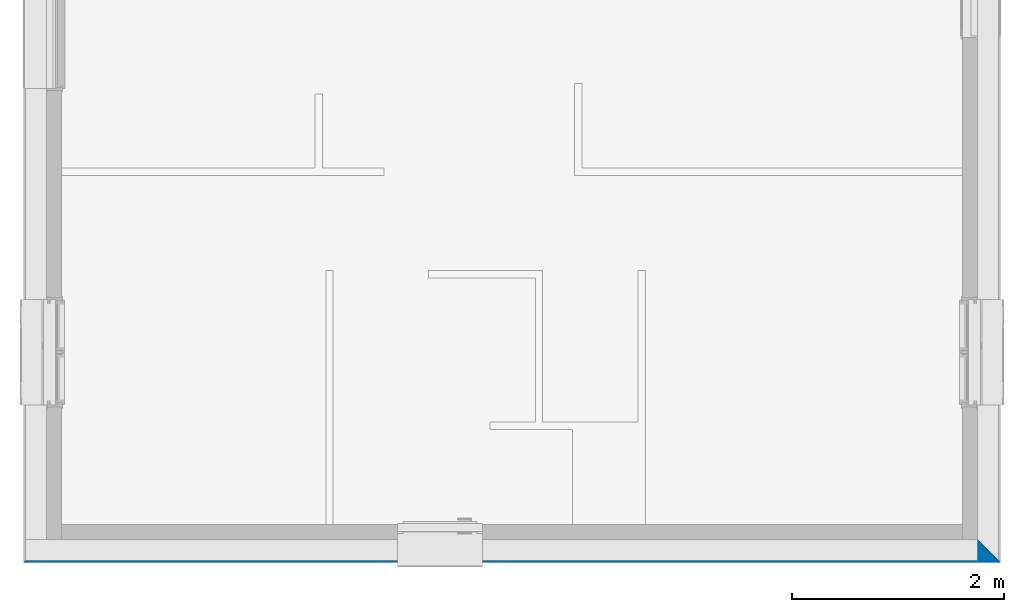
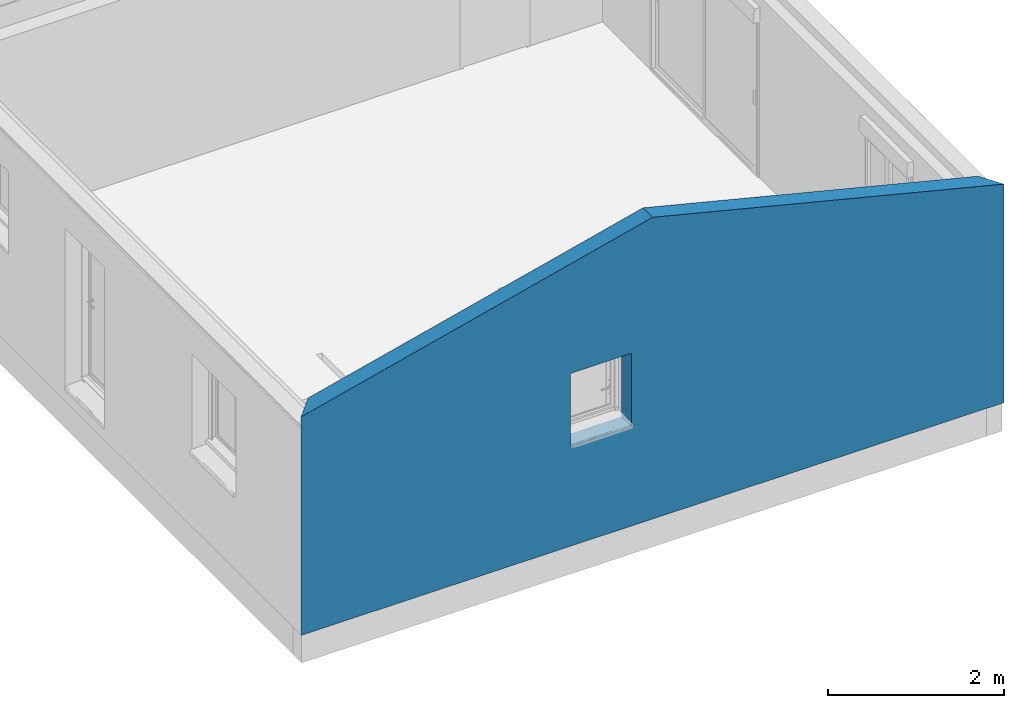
# One storey, part 3 of 7: 1 wall.
"""IFC2X3 building model written with IfcOpenShell, lengths in metres."""

import ifcopenshell
import ifcopenshell.guid

model = None  # the IFC model being written
_history = None  # IfcOwnerHistory: only IFC2X3 demands one
_inside = {}  # id of a spatial element -> (the spatial element, [elements in it])
_under = {}  # id of a project, library or spatial element -> (it, [spatial elements below it])
_declared = {}  # id of a project -> (the project, [libraries it declares])
_typed = {}  # id of a type object -> (the type object, [elements of that type])
_made_of = {}  # id of a material, layer set ... -> (it, [elements and type objects made of it])


def new_model(schema):
    """Start an empty IFC model of exactly this schema.

    Asked for "IFC4X3", IfcOpenShell would pick the latest addendum, in which some entities
    have other attributes; the version numbers below select the first issue.
    IFC2X3 requires an IfcOwnerHistory on every rooted entity: one is made here for all.
    """
    global model, _history
    if schema == "IFC4X3":
        model = ifcopenshell.file(schema_version=(4, 3, 0, 0))
    else:
        model = ifcopenshell.file(schema=schema)
    _inside.clear()
    _under.clear()
    _declared.clear()
    _typed.clear()
    _made_of.clear()
    _history = None
    if model.schema == "IFC2X3":
        org = make("IfcOrganization", Name="unknown")
        user = make(
            "IfcPersonAndOrganization",
            ThePerson=make("IfcPerson", FamilyName="unknown"),
            TheOrganization=org,
        )
        app = make(
            "IfcApplication",
            ApplicationDeveloper=org,
            Version="unknown",
            ApplicationFullName="unknown",
            ApplicationIdentifier="unknown",
        )
        _history = make(
            "IfcOwnerHistory",
            OwningUser=user,
            OwningApplication=app,
            ChangeAction="ADDED",
            CreationDate=0,
        )
    return model


def make(cls, **values):
    """One entity of the class cls with the attributes given. An attribute that is None is left unset."""
    return model.create_entity(
        cls, **{name: value for name, value in values.items() if value is not None}
    )


def entity(cls, *values):
    """Any entity or typed value of the class cls, its attributes in the order of the schema. None: left unset."""
    e = model.create_entity(cls)
    for i, value in enumerate(values):
        if value is not None:
            e[i] = value
    return e


def rooted(cls, **values):
    """An entity with a GlobalId (a new one), such as an element, a storey or a relation."""
    return make(cls, GlobalId=ifcopenshell.guid.new(), OwnerHistory=_history, **values)


def si_unit(unit_type, name, prefix=None):
    """IfcSIUnit, for example si_unit("LENGTHUNIT", "METRE", prefix="MILLI")."""
    return make("IfcSIUnit", UnitType=unit_type, Prefix=prefix, Name=name)


def converted_unit(unit_type, name, factor, base, dimensions=None, offset=None):
    """IfcConversionBasedUnit, such as the inch: factor (a typed value) times the base unit."""
    return make(
        "IfcConversionBasedUnit"
        if offset is None
        else "IfcConversionBasedUnitWithOffset",
        ConversionOffset=offset,
        Dimensions=None
        if dimensions is None
        else entity("IfcDimensionalExponents", *dimensions),
        UnitType=unit_type,
        Name=name,
        ConversionFactor=make(
            "IfcMeasureWithUnit", ValueComponent=factor, UnitComponent=base
        ),
    )


def derived_unit(unit_type, elements):
    """IfcDerivedUnit: a product of units, each with its exponent."""
    return make(
        "IfcDerivedUnit",
        Elements=[
            make("IfcDerivedUnitElement", Unit=unit, Exponent=power)
            for unit, power in elements
        ],
        UnitType=unit_type,
    )


def assignment(units):
    """IfcUnitAssignment: the units of a project."""
    return None if units is None else make("IfcUnitAssignment", Units=units)


def point(xyz):
    """IfcCartesianPoint."""
    return None if xyz is None else make("IfcCartesianPoint", Coordinates=xyz)


def direction(xyz):
    """IfcDirection."""
    return None if xyz is None else make("IfcDirection", DirectionRatios=xyz)


def frame(location, z_axis=None, x_axis=None):
    """IfcAxis2Placement3D, a coordinate frame: its origin and axes. An axis left out is left unset."""
    return make(
        "IfcAxis2Placement3D",
        Location=point(location),
        Axis=direction(z_axis),
        RefDirection=direction(x_axis),
    )


def origin():
    """The frame at (0, 0, 0) with its axes left unset."""
    return frame((0.0, 0.0, 0.0))


def place(relative_to, where):
    """IfcLocalPlacement: puts the frame where relative to a parent placement (None: the world)."""
    return make(
        "IfcLocalPlacement", PlacementRelTo=relative_to, RelativePlacement=where
    )


def context(
    kind, dimensions, precision=None, world=None, true_north=None, identifier=None
):
    """IfcGeometricRepresentationContext, for example the 3D "Model" context."""
    return make(
        "IfcGeometricRepresentationContext",
        ContextIdentifier=identifier,
        ContextType=kind,
        CoordinateSpaceDimension=dimensions,
        Precision=precision,
        WorldCoordinateSystem=world,
        TrueNorth=true_north,
    )


def subcontext(parent, identifier, kind, view, scale=None):
    """IfcGeometricRepresentationSubContext, for example "Body" below "Model"."""
    return make(
        "IfcGeometricRepresentationSubContext",
        ContextIdentifier=identifier,
        ContextType=kind,
        ParentContext=parent,
        TargetScale=scale,
        TargetView=view,
    )


def project(units=None, contexts=None):
    """IfcProject with its units and contexts."""
    return rooted(
        "IfcProject",
        Name="project",
        RepresentationContexts=contexts,
        UnitsInContext=assignment(units),
    )


def spatial(cls, under=None, at=None, **own):
    """A site, building, storey or space (cls), placed at a placement, below another one or the project."""
    s = rooted(cls, ObjectPlacement=at, **own)
    if under is not None:
        _under.setdefault(under.id(), (under, []))[1].append(s)
    return s


def faces_of(points, faces, orient=None, outer=None):
    """IfcFace entities. A face is a list of loops; a loop is a list of indices into points, from 0.

    orient and outer hold one flag for each loop. By default every Orientation is true, the
    first loop of a face is its IfcFaceOuterBound and the others are IfcFaceBound.
    """
    made = []
    for i, loops in enumerate(faces):
        bounds = []
        for j, loop in enumerate(loops):
            is_outer = j == 0 if outer is None else outer[i][j]
            bounds.append(
                make(
                    "IfcFaceOuterBound" if is_outer else "IfcFaceBound",
                    Bound=make("IfcPolyLoop", Polygon=[points[k] for k in loop]),
                    Orientation=True if orient is None else orient[i][j],
                )
            )
        made.append(make("IfcFace", Bounds=bounds))
    return made


def faceted_brep(points, faces, orient=None, outer=None, voids=None):
    """IfcFacetedBrep: a solid bounded by flat faces; with voids (closed shells), ...WithVoids."""
    shared = [point(p) for p in points]
    hull = make("IfcClosedShell", CfsFaces=faces_of(shared, faces, orient, outer))
    if voids is None:
        return make("IfcFacetedBrep", Outer=hull)
    return make(
        "IfcFacetedBrepWithVoids",
        Outer=hull,
        Voids=[
            make(cls, CfsFaces=faces_of(shared, fs, o, b)) for cls, fs, o, b in voids
        ],
    )


def shape(context_of_items, identifier, shape_type, items):
    """IfcShapeRepresentation: the items that make up one representation, for example the "Body"."""
    return make(
        "IfcShapeRepresentation",
        ContextOfItems=context_of_items,
        RepresentationIdentifier=identifier,
        RepresentationType=shape_type,
        Items=items,
    )


def material(Name=None, Category=None):
    """IfcMaterial."""
    return make("IfcMaterial", Name=Name, Category=Category)


def layer(
    of_material, thickness, ventilated=None, Name=None, Category=None, Priority=None
):
    """IfcMaterialLayer: one layer of a wall or slab, of a material (None: an air gap)."""
    return make(
        "IfcMaterialLayer",
        Material=of_material,
        LayerThickness=thickness,
        IsVentilated=ventilated,
        Name=Name,
        Category=Category,
        Priority=Priority,
    )


def layer_set(layers, Name=None):
    """IfcMaterialLayerSet."""
    return make("IfcMaterialLayerSet", MaterialLayers=layers, LayerSetName=Name)


def made_of(thing, what):
    """Note that an element or type object is made of a material, layer set ...; save() writes the relation."""
    if what is not None:
        _made_of.setdefault(what.id(), (what, []))[1].append(thing)
    return thing


def type_object(cls, material=None, **own):
    """A type object (cls), such as IfcWallType, which elements share."""
    return made_of(rooted(cls, **own), material)


def element(
    cls,
    number,
    at=None,
    inside=None,
    cuts=None,
    type_object=None,
    material=None,
    context=None,
    identifier="Body",
    shape_type=None,
    held_by="IfcProductDefinitionShape",
    body=None,
    shapes=None,
    **own,
):
    """One element of the class cls, such as IfcWall. Its Tag is "e" and its number.

    at: its placement. inside: the storey or other place that contains it. cuts: it is an
    opening in that element (IfcRelVoidsElement). A single representation is given by context,
    identifier, shape_type and body (its items); several are given by shapes. held_by: the class
    of the entity that holds the representations. save() writes the other relations.
    """
    e = rooted(cls, Tag="e%d" % number, ObjectPlacement=at, **own)
    if body is not None:
        shapes = [shape(context, identifier, shape_type, body)]
    if shapes is not None:
        e.Representation = make(held_by, Representations=shapes)
    if inside is not None:
        _inside.setdefault(inside.id(), (inside, []))[1].append(e)
    if cuts is not None:
        rooted(
            "IfcRelVoidsElement", RelatingBuildingElement=cuts, RelatedOpeningElement=e
        )
    if type_object is not None:
        _typed.setdefault(type_object.id(), (type_object, []))[1].append(e)
    return made_of(e, material)


def aggregate(whole, parts):
    """IfcRelAggregates: a whole, such as a stair, and the parts it consists of."""
    return rooted("IfcRelAggregates", RelatingObject=whole, RelatedObjects=parts)


def save(model, path):
    """Write the relations noted so far, then the file.

    IfcRelAggregates (storeys below a building ...), IfcRelContainedInSpatialStructure (elements
    in a storey), IfcRelDefinesByType, IfcRelAssociatesMaterial and IfcRelDeclares: one each for
    every whole, place, type object, material and project.
    """
    for whole, parts in _under.values():
        aggregate(whole, parts)
    for where, things in _inside.values():
        rooted(
            "IfcRelContainedInSpatialStructure",
            RelatedElements=things,
            RelatingStructure=where,
        )
    for kind, things in _typed.values():
        rooted("IfcRelDefinesByType", RelatedObjects=things, RelatingType=kind)
    for what, things in _made_of.values():
        rooted("IfcRelAssociatesMaterial", RelatedObjects=things, RelatingMaterial=what)
    for by, libraries in _declared.values():
        rooted("IfcRelDeclares", RelatingContext=by, RelatedDefinitions=libraries)
    model.write(path)


model = new_model("IFC2X3")

# Units and contexts
model_context = context("Model", 3, precision=1e-05, world=origin(), true_north=direction((6.123031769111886e-17, 1.0)))
body_context = subcontext(model_context, "Body", "Model", "MODEL_VIEW")
ifc_project = project(units=[si_unit("LENGTHUNIT", "METRE"), si_unit("AREAUNIT", "SQUARE_METRE"), si_unit("VOLUMEUNIT", "CUBIC_METRE"), converted_unit("PLANEANGLEUNIT", "DEGREE", entity("IfcRatioMeasure", 0.017453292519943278), si_unit("PLANEANGLEUNIT", "RADIAN"), dimensions=[0, 0, 0, 0, 0, 0, 0]), si_unit("MASSUNIT", "GRAM", prefix="KILO"), derived_unit("MASSDENSITYUNIT", [(si_unit("MASSUNIT", "GRAM", prefix="KILO"), 1), (si_unit("LENGTHUNIT", "METRE"), -3)]), derived_unit("IONCONCENTRATIONUNIT", [(si_unit("MASSUNIT", "GRAM", prefix="KILO"), 1), (si_unit("LENGTHUNIT", "METRE"), -3)]), derived_unit("MOMENTOFINERTIAUNIT", [(si_unit("LENGTHUNIT", "METRE"), 4)]), si_unit("TIMEUNIT", "SECOND"), si_unit("FREQUENCYUNIT", "HERTZ"), si_unit("THERMODYNAMICTEMPERATUREUNIT", "DEGREE_CELSIUS"), derived_unit("THERMALTRANSMITTANCEUNIT", [(si_unit("MASSUNIT", "GRAM", prefix="KILO"), 1), (si_unit("THERMODYNAMICTEMPERATUREUNIT", "KELVIN"), -1), (si_unit("TIMEUNIT", "SECOND"), -3)]), derived_unit("THERMALCONDUCTANCEUNIT", [(si_unit("MASSUNIT", "GRAM", prefix="KILO"), 1), (si_unit("THERMODYNAMICTEMPERATUREUNIT", "KELVIN"), -1), (si_unit("TIMEUNIT", "SECOND"), -3), (si_unit("LENGTHUNIT", "METRE"), 1)]), derived_unit("VOLUMETRICFLOWRATEUNIT", [(si_unit("LENGTHUNIT", "METRE"), 3), (si_unit("TIMEUNIT", "SECOND"), -1)]), derived_unit("MASSFLOWRATEUNIT", [(si_unit("MASSUNIT", "GRAM", prefix="KILO"), 1), (si_unit("TIMEUNIT", "SECOND"), -1)]), derived_unit("ROTATIONALFREQUENCYUNIT", [(si_unit("TIMEUNIT", "SECOND"), -1)]), si_unit("ELECTRICCURRENTUNIT", "AMPERE"), si_unit("ELECTRICVOLTAGEUNIT", "VOLT"), si_unit("POWERUNIT", "WATT"), si_unit("FORCEUNIT", "NEWTON", prefix="KILO"), si_unit("ILLUMINANCEUNIT", "LUX"), si_unit("LUMINOUSFLUXUNIT", "LUMEN"), si_unit("LUMINOUSINTENSITYUNIT", "CANDELA"), derived_unit("USERDEFINED", [(si_unit("MASSUNIT", "GRAM", prefix="KILO"), -1), (si_unit("LENGTHUNIT", "METRE"), -2), (si_unit("TIMEUNIT", "SECOND"), 3), (si_unit("LUMINOUSFLUXUNIT", "LUMEN"), 1)]), derived_unit("USERDEFINED", [(si_unit("MASSUNIT", "GRAM", prefix="KILO"), 1), (si_unit("TIMEUNIT", "SECOND"), -3), (si_unit("LENGTHUNIT", "METRE"), 3), (si_unit("ELECTRICCURRENTUNIT", "AMPERE"), -2)]), derived_unit("SOUNDPOWERUNIT", [(si_unit("MASSUNIT", "GRAM", prefix="KILO"), 1), (si_unit("TIMEUNIT", "SECOND"), -3), (si_unit("LENGTHUNIT", "METRE"), 2)]), derived_unit("SOUNDPRESSUREUNIT", [(si_unit("MASSUNIT", "GRAM", prefix="KILO"), 1), (si_unit("LENGTHUNIT", "METRE"), -1), (si_unit("TIMEUNIT", "SECOND"), -2)]), derived_unit("LINEARVELOCITYUNIT", [(si_unit("LENGTHUNIT", "METRE"), 1), (si_unit("TIMEUNIT", "SECOND"), -1)]), si_unit("PRESSUREUNIT", "PASCAL"), derived_unit("USERDEFINED", [(si_unit("MASSUNIT", "GRAM", prefix="KILO"), 1), (si_unit("LENGTHUNIT", "METRE"), -2), (si_unit("TIMEUNIT", "SECOND"), -2)]), derived_unit("LINEARFORCEUNIT", [(si_unit("MASSUNIT", "GRAM", prefix="KILO"), 1), (si_unit("TIMEUNIT", "SECOND"), -2)]), derived_unit("PLANARFORCEUNIT", [(si_unit("MASSUNIT", "GRAM", prefix="KILO"), 1), (si_unit("LENGTHUNIT", "METRE"), -1), (si_unit("TIMEUNIT", "SECOND"), -2)]), derived_unit("SPECIFICHEATCAPACITYUNIT", [(si_unit("THERMODYNAMICTEMPERATUREUNIT", "KELVIN"), -1), (si_unit("LENGTHUNIT", "METRE"), 2), (si_unit("TIMEUNIT", "SECOND"), -2)]), derived_unit("HEATINGVALUEUNIT", [(si_unit("LENGTHUNIT", "METRE"), 2), (si_unit("TIMEUNIT", "SECOND"), -2)]), derived_unit("VAPORPERMEABILITYUNIT", [(si_unit("LENGTHUNIT", "METRE"), -1), (si_unit("TIMEUNIT", "SECOND"), 1)]), derived_unit("DYNAMICVISCOSITYUNIT", [(si_unit("MASSUNIT", "GRAM", prefix="KILO"), 1), (si_unit("TIMEUNIT", "SECOND"), -1), (si_unit("LENGTHUNIT", "METRE"), -1)]), derived_unit("THERMALEXPANSIONCOEFFICIENTUNIT", [(si_unit("THERMODYNAMICTEMPERATUREUNIT", "KELVIN"), -1)]), derived_unit("MODULUSOFELASTICITYUNIT", [(si_unit("MASSUNIT", "GRAM", prefix="KILO"), 1), (si_unit("LENGTHUNIT", "METRE"), -1), (si_unit("TIMEUNIT", "SECOND"), -2)]), derived_unit("ISOTHERMALMOISTURECAPACITYUNIT", [(si_unit("LENGTHUNIT", "METRE"), 3), (si_unit("MASSUNIT", "GRAM", prefix="KILO"), -1)]), derived_unit("MOISTUREDIFFUSIVITYUNIT", [(si_unit("TIMEUNIT", "SECOND"), -1), (si_unit("LENGTHUNIT", "METRE"), 2)])], contexts=[model_context])

# Site, building, storey
site_placement = place(None, frame((1.2553507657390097, -0.6266432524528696, -1.0397761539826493), z_axis=(0.0, 0.0, 1.0), x_axis=(-1.0, 0.0, 0.0)))
site = spatial("IfcSite", under=ifc_project, at=site_placement, Name="Default", CompositionType="ELEMENT")
building_placement = place(site_placement, origin())
building = spatial("IfcBuilding", under=site, at=building_placement, Name="MAISON D'HABITATION", CompositionType="ELEMENT")
storey_placement = place(building_placement, frame((0.0, 0.0, 0.38977615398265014)))
storey = spatial("IfcBuildingStorey", under=building, at=storey_placement, Name="Niveau dessus semelle filante", CompositionType="ELEMENT", Elevation=0.38977615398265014)

# Wall
ifc_material_1 = material(Name="Enduit gratté")
ifc_layer_1 = layer(ifc_material_1, 0.018)
ifc_material_2 = material(Name="Agglo creux, parpaing")
ifc_layer_2 = layer(ifc_material_2, 0.2)
ifc_layer_set = layer_set([ifc_layer_1, ifc_layer_2], Name="Mur de base:parpaing+enduit 18cm")
wall_type = type_object("IfcWallType", Name="Mur de base:parpaing+enduit 18cm", PredefinedType="STANDARD", material=ifc_layer_set)
wall_placement = place(storey_placement, frame((-4.89786699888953, 3.245183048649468, 0.39999999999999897)))
element("IfcWall", 1, at=wall_placement, inside=storey, type_object=wall_type, Name="Mur de base:parpaing+enduit 18cm", ObjectType="Mur de base:parpaing+enduit 18cm", context=body_context, shape_type="Brep", body=[
    faceted_brep([(0.21800000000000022, -0.10899999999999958, 0.12000000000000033), (0.35799999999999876, -0.10899999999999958, 0.12000000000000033), (8.87799999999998, -0.10899999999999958, 0.12000000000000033), (9.017999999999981, -0.10899999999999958, 0.12000000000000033), (9.017999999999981, -0.10899999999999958, 3.091303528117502), (4.616999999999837, -0.10899999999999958, 4.191860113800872), (0.21800000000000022, -0.10899999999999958, 3.0913156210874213), (4.897999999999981, -0.10899999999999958, 2.4000000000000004), (5.697999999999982, -0.10899999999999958, 2.4000000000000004), (5.697999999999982, -0.10899999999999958, 1.3849999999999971), (4.897999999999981, -0.10899999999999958, 1.3849999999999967), (9.235999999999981, 0.10900000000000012, 3.036788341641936), (9.235999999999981, 0.10900000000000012, 0.0), (0.0, 0.10900000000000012, 0.0), (0.0, 0.10900000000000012, 3.036776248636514), (4.616999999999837, 0.10900000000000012, 4.191860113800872), (5.697999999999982, 0.10900000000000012, 2.4000000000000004), (4.897999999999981, 0.10900000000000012, 2.400000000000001), (4.897999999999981, 0.10900000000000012, 1.3849999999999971), (5.697999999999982, 0.10900000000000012, 1.3849999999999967), (9.21799999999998, 0.09099999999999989, 0.12000000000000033), (9.21799999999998, 0.09100000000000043, 0.0), (0.018000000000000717, 0.09099999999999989, 0.0), (0.018000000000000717, 0.09099999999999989, 0.12000000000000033)], [[[0, 1, 2, 3, 4, 5, 6], [7, 8, 9, 10]], [[11, 12, 13, 14, 15], [16, 17, 18, 19]], [[4, 3, 20, 21, 12, 11]], [[0, 6, 14, 13, 22, 23]], [[16, 8, 7, 17]], [[17, 7, 10, 18]], [[8, 16, 19, 9]], [[18, 10, 9, 19]], [[3, 2, 1, 0, 23, 20]], [[20, 23, 22, 21]], [[22, 13, 12, 21]], [[5, 4, 11, 15]], [[6, 5, 15, 14]]]),
])

save(model, "model.ifc")
